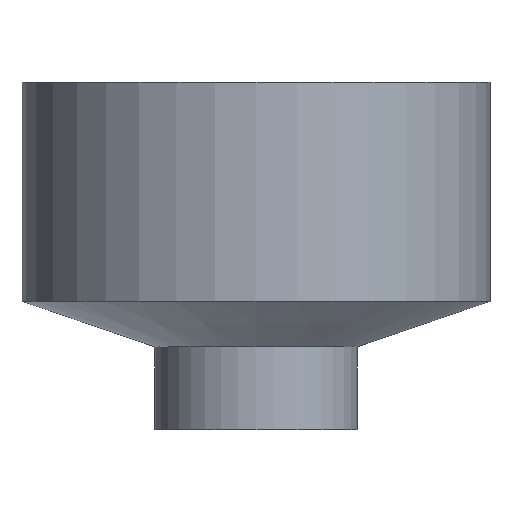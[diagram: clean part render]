
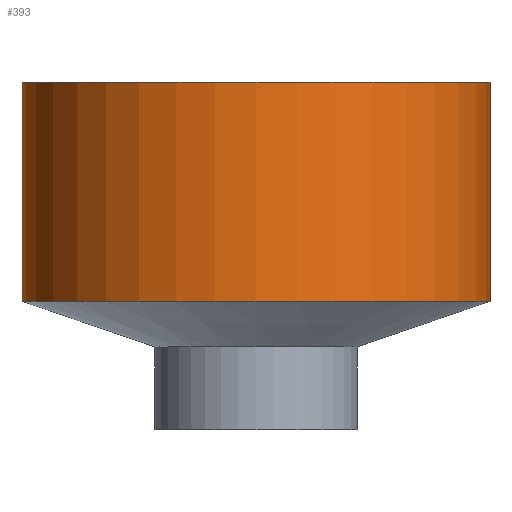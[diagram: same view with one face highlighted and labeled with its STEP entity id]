
A CAD part, front view. The second image highlights one B-rep face of the part: STEP entity #393.
In plain terms, the highlighted cylindrical face has radius 33 mm (diameter 66 mm), a partial arc.
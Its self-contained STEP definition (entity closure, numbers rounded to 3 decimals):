
#7 = DIRECTION ( 'NONE',  ( 0., 0., -1. ) ) ;
#18 = AXIS2_PLACEMENT_3D ( 'NONE', #77, #322, #480 ) ;
#23 = EDGE_LOOP ( 'NONE', ( #64, #454, #196, #408 ) ) ;
#64 = ORIENTED_EDGE ( 'NONE', *, *, #522, .F. ) ;
#74 = AXIS2_PLACEMENT_3D ( 'NONE', #141, #266, #178 ) ;
#77 = CARTESIAN_POINT ( 'NONE',  ( 0., 0., 49. ) ) ;
#92 = CARTESIAN_POINT ( 'NONE',  ( 33., 0., 18.1 ) ) ;
#104 = FACE_OUTER_BOUND ( 'NONE', #23, .T. ) ;
#107 = VERTEX_POINT ( 'NONE', #479 ) ;
#109 = EDGE_CURVE ( 'NONE', #224, #272, #284, .T. ) ;
#116 = CARTESIAN_POINT ( 'NONE',  ( -33., 0., 49. ) ) ;
#141 = CARTESIAN_POINT ( 'NONE',  ( 0., 0., 49. ) ) ;
#159 = DIRECTION ( 'NONE',  ( 0., 0., -1. ) ) ;
#178 = DIRECTION ( 'NONE',  ( -1., 0., 0. ) ) ;
#180 = LINE ( 'NONE', #504, #417 ) ;
#181 = CIRCLE ( 'NONE', #18, 33. ) ;
#189 = VECTOR ( 'NONE', #439, 1000. ) ;
#196 = ORIENTED_EDGE ( 'NONE', *, *, #109, .T. ) ;
#200 = DIRECTION ( 'NONE',  ( -1., 0., 0. ) ) ;
#224 = VERTEX_POINT ( 'NONE', #367 ) ;
#246 = CARTESIAN_POINT ( 'NONE',  ( 0., 0., 18.1 ) ) ;
#265 = CYLINDRICAL_SURFACE ( 'NONE', #74, 33. ) ;
#266 = DIRECTION ( 'NONE',  ( 0., 0., -1. ) ) ;
#271 = EDGE_CURVE ( 'NONE', #397, #272, #335, .T. ) ;
#272 = VERTEX_POINT ( 'NONE', #332 ) ;
#278 = EDGE_CURVE ( 'NONE', #224, #107, #181, .T. ) ;
#284 = LINE ( 'NONE', #116, #189 ) ;
#322 = DIRECTION ( 'NONE',  ( 0., 0., 1. ) ) ;
#332 = CARTESIAN_POINT ( 'NONE',  ( -33., 0., 18.1 ) ) ;
#335 = CIRCLE ( 'NONE', #379, 33. ) ;
#367 = CARTESIAN_POINT ( 'NONE',  ( -33., 0., 49. ) ) ;
#379 = AXIS2_PLACEMENT_3D ( 'NONE', #246, #159, #200 ) ;
#393 = ADVANCED_FACE ( 'NONE', ( #104 ), #265, .T. ) ;
#397 = VERTEX_POINT ( 'NONE', #92 ) ;
#408 = ORIENTED_EDGE ( 'NONE', *, *, #271, .F. ) ;
#417 = VECTOR ( 'NONE', #7, 1000. ) ;
#439 = DIRECTION ( 'NONE',  ( 0., 0., -1. ) ) ;
#454 = ORIENTED_EDGE ( 'NONE', *, *, #278, .F. ) ;
#479 = CARTESIAN_POINT ( 'NONE',  ( 33., 0., 49. ) ) ;
#480 = DIRECTION ( 'NONE',  ( 1., 0., 0. ) ) ;
#504 = CARTESIAN_POINT ( 'NONE',  ( 33., 0., 49. ) ) ;
#522 = EDGE_CURVE ( 'NONE', #107, #397, #180, .T. ) ;
